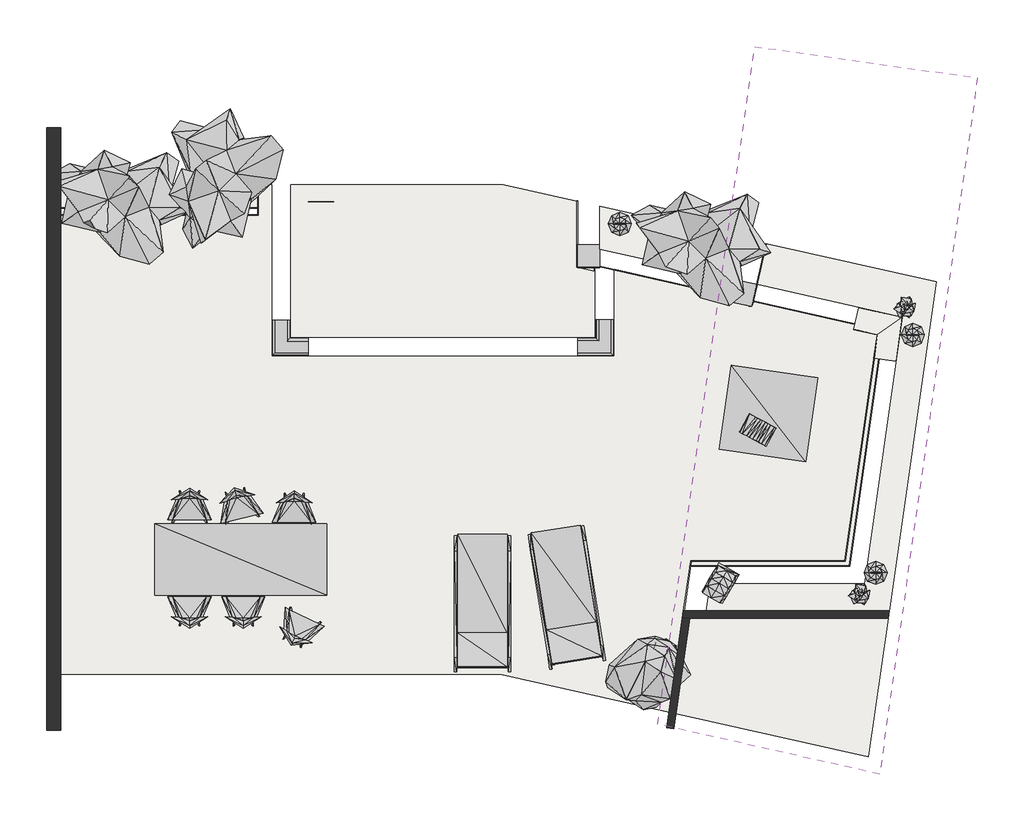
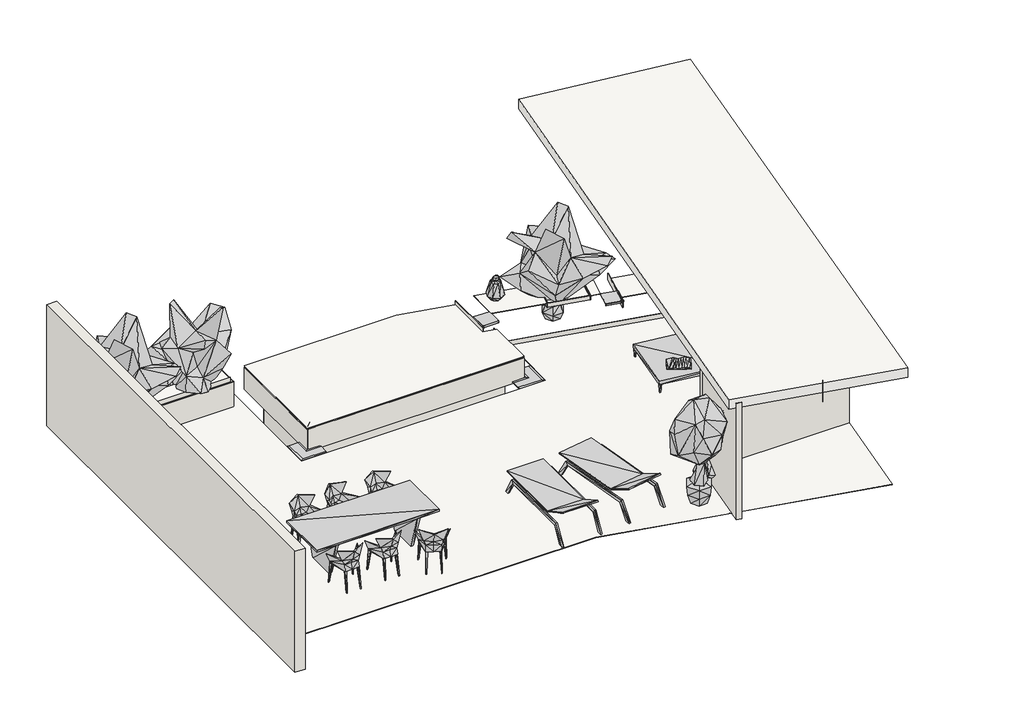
# One storey: 25 walls, 22 geographic elements, 16 slabs, 6 proxies.
"""IFC4 building model written with IfcOpenShell, lengths in millimetres."""

from ifc_helpers import new_model, si_unit, frame, origin, place, context, project, spatial, polyline, outline, extrude, faceted_brep, transform, mapped, element, save
from components import generic_models_951569f7, generic_models_075414a9, generic_models_225379f4, bloque_rs_943_f1732a4f, geographic_element_e55dff35, geographic_element_0adfae54, enscape_assetdefinition_dining_chair_06_enscape_9facff2e, enscape_assetdefinition_dining_chair_06_enscape_993760cc, enscape_assetdefinition_dining_table_13_enscape_23bd2d82, enscape_assetdefinition_interior_plant_62_enscape_7ba2f476, enscape_assetdefinition_interior_plant_82_enscape_8433f75e, enscape_assetdefinition_interior_plant_93_enscape_c96065a9, enscape_assetdefinition_interior_plant_94_enscape_f19d4f65, enscape_assetdefinition_open_book_enscape_assetdefinition_955bd487, enscape_assetdefinition_outdoor_couch_table_02_enscape_a96dd87a, enscape_assetdefinition_throw_04_enscape_assetdefinition_2e475fd9, slab_73b0a854, slab_c32b6409, slab_32885ca8, slab_039c3274

model = new_model("IFC4")

# Units and contexts
model_context = context("Model", 3, world=origin())
ifc_project = project(units=[si_unit("LENGTHUNIT", "METRE", prefix="MILLI")], contexts=[model_context])

# Site, building, storey
site = spatial("IfcSite", under=ifc_project)
building = spatial("IfcBuilding", under=site)
storey = spatial("IfcBuildingStorey", under=building, Name="1_NPlaya", Elevation=0.0)

# Proxies
placement = place(None, origin())
generic_models_shape = generic_models_951569f7(model_context)
element("IfcBuildingElementProxy", 1, Name="ROSA GRES_DL1 : Pieza DL1_Mistery_Grey_Anti-Slip", ObjectType="ROSA GRES_DL1 : Pieza DL1_Mistery_Grey_Anti-Slip", at=placement, inside=storey, context=model_context, shape_type="MappedRepresentation", body=[
    mapped(generic_models_shape, transform((10148.8838522, 9930.6579213, -488.0), x_axis=(-1.0, 0.0, 0.0), y_axis=(0.0, -1.0, 0.0), z_axis=(0.0, 0.0, 1.0))),
])
generic_models_2_shape = generic_models_075414a9(model_context)
element("IfcBuildingElementProxy", 2, Name="ROSA GRES_245 EC_Colocación en plano : Pieza 245 EC_Mistery_Grey_Anti-Slip", ObjectType="ROSA GRES_245 EC_Colocación en plano : Pieza 245 EC_Mistery_Grey_Anti-Slip", at=placement, inside=storey, context=model_context, shape_type="MappedRepresentation", body=[
    mapped(generic_models_2_shape, transform((5584.8213522, 8700.953544, -1025.0413492), x_axis=(-1.0, 0.0, 0.0), y_axis=(0.0, -1.0, 0.0), z_axis=(0.0, 0.0, 1.0))),
])
element("IfcBuildingElementProxy", 3, Name="ROSA GRES_245 EC_Colocación en plano : Pieza 245 EC_Mistery_Grey_Anti-Slip", ObjectType="ROSA GRES_245 EC_Colocación en plano : Pieza 245 EC_Mistery_Grey_Anti-Slip", at=placement, inside=storey, context=model_context, shape_type="MappedRepresentation", body=[
    mapped(generic_models_2_shape, transform((10343.7649872, 8703.453544, -1025.0413492), x_axis=(0.0, -1.0, 0.0), y_axis=(1.0, 0.0, 0.0), z_axis=(0.0, 0.0, 1.0))),
])
generic_models_3_shape = generic_models_225379f4(model_context)
element("IfcBuildingElementProxy", 4, Name="ROSA GRES_DL1 : Pieza DL1_Mistery_Grey_Anti-Slip", ObjectType="ROSA GRES_DL1 : Pieza DL1_Mistery_Grey_Anti-Slip", at=placement, inside=storey, context=model_context, shape_type="MappedRepresentation", body=[
    mapped(generic_models_3_shape, transform((11966.710321, 9455.4745053, -488.0), x_axis=(0.9756469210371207, -0.21934695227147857, 0.0), y_axis=(0.21934695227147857, 0.9756469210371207, 0.0), z_axis=(0.0, 0.0, 1.0))),
])
bloque_rs_943_shape = bloque_rs_943_f1732a4f(model_context)
element("IfcBuildingElementProxy", 5, Name="ROSA GRES_RS 943 : Bloque RS 943", ObjectType="ROSA GRES_RS 943 : Bloque RS 943", at=placement, inside=storey, context=model_context, shape_type="MappedRepresentation", body=[
    mapped(bloque_rs_943_shape, transform((5574.8213522, 8694.703544, -1135.0), x_axis=(-1.0, 0.0, 0.0), y_axis=(0.0, -1.0, 0.0), z_axis=(0.0, 0.0, 1.0))),
])
element("IfcBuildingElementProxy", 6, Name="ROSA GRES_RS 943 : Bloque RS 943", ObjectType="ROSA GRES_RS 943 : Bloque RS 943", at=placement, inside=storey, context=model_context, shape_type="MappedRepresentation", body=[
    mapped(bloque_rs_943_shape, transform((10350.0149872, 8695.953544, -1135.0), x_axis=(0.0, -1.0, 0.0), y_axis=(1.0, 0.0, 0.0), z_axis=(0.0, 0.0, 1.0))),
])

# Geographic elements
geographic_element_shape = geographic_element_e55dff35(model_context)
element("IfcGeographicElement", 7, ObjectType="Enscape AssetDefinition - Candle Lantern 02 : Enscape AssetDefinition - Candle Lantern 02", at=placement, inside=storey, context=model_context, shape_type="MappedRepresentation", body=[
    mapped(geographic_element_shape, transform((14000.5713522, 5673.5767075, -600.0), x_axis=(1.0, 0.0, 0.0), y_axis=(0.0, 1.0, 0.0), z_axis=(0.0, 0.0, 1.0))),
])
element("IfcGeographicElement", 8, ObjectType="Enscape AssetDefinition - Candle Lantern 02 : Enscape AssetDefinition - Candle Lantern 02", at=placement, inside=storey, context=model_context, shape_type="MappedRepresentation", body=[
    mapped(geographic_element_shape, transform((10431.8838522, 10540.953544, -450.0), x_axis=(1.0, 0.0, 0.0), y_axis=(0.0, 1.0, 0.0), z_axis=(0.0, 0.0, 1.0))),
])
element("IfcGeographicElement", 9, ObjectType="Enscape AssetDefinition - Candle Lantern 02 : Enscape AssetDefinition - Candle Lantern 02", at=placement, inside=storey, context=model_context, shape_type="MappedRepresentation", body=[
    mapped(geographic_element_shape, transform((14518.5513881, 8991.813544, -600.0), x_axis=(1.0, 0.0, 0.0), y_axis=(0.0, 1.0, 0.0), z_axis=(0.0, 0.0, 1.0))),
])
geographic_element_2_shape = geographic_element_0adfae54(model_context)
element("IfcGeographicElement", 10, ObjectType="Enscape AssetDefinition - Sunbed : Enscape AssetDefinition - Sunbed", at=placement, inside=storey, context=model_context, shape_type="MappedRepresentation", body=[
    mapped(geographic_element_2_shape, transform((9691.0986664, 5329.572896, -1000.0), x_axis=(-0.9871439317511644, -0.15983384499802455, 0.0), y_axis=(0.15983384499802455, -0.9871439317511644, 0.0), z_axis=(0.0, 0.0, 1.0))),
])
element("IfcGeographicElement", 11, ObjectType="Enscape AssetDefinition - Sunbed : Enscape AssetDefinition - Sunbed", at=placement, inside=storey, context=model_context, shape_type="MappedRepresentation", body=[
    mapped(geographic_element_2_shape, transform((8514.8590964, 5242.4533583, -1000.0), x_axis=(-1.0, 0.0, 0.0), y_axis=(0.0, -1.0, 0.0), z_axis=(0.0, 0.0, 1.0))),
])
enscape_assetdefinition_dining_chair_06_enscape_shape = enscape_assetdefinition_dining_chair_06_enscape_9facff2e(model_context)
element("IfcGeographicElement", 12, ObjectType="Enscape AssetDefinition - Dining Chair 06 : Enscape AssetDefinition - Dining Chair 06", at=placement, inside=storey, context=model_context, shape_type="MappedRepresentation", body=[
    mapped(enscape_assetdefinition_dining_chair_06_enscape_shape, transform((4428.9239273, 5153.8271224, -1000.0), x_axis=(-1.0, 0.0, 0.0), y_axis=(0.0, -1.0, 0.0), z_axis=(0.0, 0.0, 1.0))),
])
element("IfcGeographicElement", 13, ObjectType="Enscape AssetDefinition - Dining Chair 06 : Enscape AssetDefinition - Dining Chair 06", at=placement, inside=storey, context=model_context, shape_type="MappedRepresentation", body=[
    mapped(enscape_assetdefinition_dining_chair_06_enscape_shape, transform((5178.9411599, 5153.8271224, -1000.0), x_axis=(-1.0, 0.0, 0.0), y_axis=(0.0, -1.0, 0.0), z_axis=(0.0, 0.0, 1.0))),
])
element("IfcGeographicElement", 14, ObjectType="Enscape AssetDefinition - Dining Chair 06 : Enscape AssetDefinition - Dining Chair 06", at=placement, inside=storey, context=model_context, shape_type="MappedRepresentation", body=[
    mapped(enscape_assetdefinition_dining_chair_06_enscape_shape, transform((5954.1118478, 4891.9208979, -1000.0), x_axis=(-0.9017533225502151, 0.4322510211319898, 0.0), y_axis=(-0.4322510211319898, -0.9017533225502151, 0.0), z_axis=(0.0, 0.0, 1.0))),
])
enscape_assetdefinition_dining_chair_06_enscape_2_shape = enscape_assetdefinition_dining_chair_06_enscape_993760cc(model_context)
element("IfcGeographicElement", 15, ObjectType="Enscape AssetDefinition - Dining Chair 06 : Enscape AssetDefinition - Dining Chair 06", at=placement, inside=storey, context=model_context, shape_type="MappedRepresentation", body=[
    mapped(enscape_assetdefinition_dining_chair_06_enscape_2_shape, transform((4428.9239273, 6600.0029066, -1000.0), x_axis=(-1.0, 0.0, 0.0), y_axis=(0.0, -1.0, 0.0), z_axis=(0.0, 0.0, 1.0))),
])
element("IfcGeographicElement", 16, ObjectType="Enscape AssetDefinition - Dining Chair 06 : Enscape AssetDefinition - Dining Chair 06", at=placement, inside=storey, context=model_context, shape_type="MappedRepresentation", body=[
    mapped(enscape_assetdefinition_dining_chair_06_enscape_2_shape, transform((5115.723309, 6615.4461257, -1000.0), x_axis=(-0.9698636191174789, -0.24364843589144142, 0.0), y_axis=(0.24364843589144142, -0.9698636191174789, 0.0), z_axis=(0.0, 0.0, 1.0))),
])
element("IfcGeographicElement", 17, ObjectType="Enscape AssetDefinition - Dining Chair 06 : Enscape AssetDefinition - Dining Chair 06", at=placement, inside=storey, context=model_context, shape_type="MappedRepresentation", body=[
    mapped(enscape_assetdefinition_dining_chair_06_enscape_2_shape, transform((5888.7823334, 6562.7844674, -1000.0), x_axis=(-1.0, 0.0, 0.0), y_axis=(0.0, -1.0, 0.0), z_axis=(0.0, 0.0, 1.0))),
])
enscape_assetdefinition_dining_table_13_enscape_shape = enscape_assetdefinition_dining_table_13_enscape_23bd2d82(model_context)
element("IfcGeographicElement", 18, ObjectType="Enscape AssetDefinition - Dining Table 13 : Enscape AssetDefinition - Dining Table 13", at=placement, inside=storey, context=model_context, shape_type="MappedRepresentation", body=[
    mapped(enscape_assetdefinition_dining_table_13_enscape_shape, transform((5144.8590964, 5858.3616874, -1000.0), x_axis=(1.0, 0.0, 0.0), y_axis=(0.0, 1.0, 0.0), z_axis=(0.0, 0.0, 1.0))),
])
enscape_assetdefinition_interior_plant_62_enscape_shape = enscape_assetdefinition_interior_plant_62_enscape_7ba2f476(model_context)
element("IfcGeographicElement", 19, ObjectType="Enscape AssetDefinition - Interior Plant 62 : Enscape AssetDefinition - Interior Plant 62", at=placement, inside=storey, context=model_context, shape_type="MappedRepresentation", body=[
    mapped(enscape_assetdefinition_interior_plant_62_enscape_shape, transform((14413.1394144, 9362.5767075, -600.0), x_axis=(1.0, 0.0, 0.0), y_axis=(0.0, 1.0, 0.0), z_axis=(0.0, 0.0, 1.0))),
])
element("IfcGeographicElement", 20, ObjectType="Enscape AssetDefinition - Interior Plant 62 : Enscape AssetDefinition - Interior Plant 62", at=placement, inside=storey, context=model_context, shape_type="MappedRepresentation", body=[
    mapped(enscape_assetdefinition_interior_plant_62_enscape_shape, transform((13779.3958643, 5362.4533583, -600.0), x_axis=(1.0, 0.0, 0.0), y_axis=(0.0, 1.0, 0.0), z_axis=(0.0, 0.0, 1.0))),
])
enscape_assetdefinition_interior_plant_82_enscape_shape = enscape_assetdefinition_interior_plant_82_enscape_8433f75e(model_context)
element("IfcGeographicElement", 21, ObjectType="Enscape AssetDefinition - Interior Plant 82 : Enscape AssetDefinition - Interior Plant 82", at=placement, inside=storey, context=model_context, shape_type="MappedRepresentation", body=[
    mapped(enscape_assetdefinition_interior_plant_82_enscape_shape, transform((3300.5713522, 10850.953544, -800.0), x_axis=(1.0, 0.0, 0.0), y_axis=(0.0, 1.0, 0.0), z_axis=(0.0, 0.0, 1.0))),
])
element("IfcGeographicElement", 22, ObjectType="Enscape AssetDefinition - Interior Plant 82 : Enscape AssetDefinition - Interior Plant 82", at=placement, inside=storey, context=model_context, shape_type="MappedRepresentation", body=[
    mapped(enscape_assetdefinition_interior_plant_82_enscape_shape, transform((4864.7706917, 11007.5223338, -1000.0), x_axis=(0.0, 1.0, 0.0), y_axis=(-1.0, 0.0, 0.0), z_axis=(0.0, 0.0, 1.0))),
])
element("IfcGeographicElement", 23, ObjectType="Enscape AssetDefinition - Interior Plant 82 : Enscape AssetDefinition - Interior Plant 82", at=placement, inside=storey, context=model_context, shape_type="MappedRepresentation", body=[
    mapped(enscape_assetdefinition_interior_plant_82_enscape_shape, transform((11395.7713522, 10272.4322797, -1000.0), x_axis=(1.0, 0.0, 0.0), y_axis=(0.0, 1.0, 0.0), z_axis=(0.0, 0.0, 1.0))),
])
enscape_assetdefinition_interior_plant_93_enscape_shape = enscape_assetdefinition_interior_plant_93_enscape_c96065a9(model_context)
element("IfcGeographicElement", 24, ObjectType="Enscape AssetDefinition - Interior Plant 93 : Enscape AssetDefinition - Interior Plant 93", at=placement, inside=storey, context=model_context, shape_type="MappedRepresentation", body=[
    mapped(enscape_assetdefinition_interior_plant_93_enscape_shape, transform((10820.5713522, 4322.5767075, -1000.0), x_axis=(1.0, 0.0, 0.0), y_axis=(0.0, 1.0, 0.0), z_axis=(0.0, 0.0, 1.0))),
])
enscape_assetdefinition_interior_plant_94_enscape_shape = enscape_assetdefinition_interior_plant_94_enscape_f19d4f65(model_context)
element("IfcGeographicElement", 25, ObjectType="Enscape AssetDefinition - Interior Plant 94 : Enscape AssetDefinition - Interior Plant 94", at=placement, inside=storey, context=model_context, shape_type="MappedRepresentation", body=[
    mapped(enscape_assetdefinition_interior_plant_94_enscape_shape, transform((11060.5713522, 4573.5767075, -1000.0), x_axis=(1.0, 0.0, 0.0), y_axis=(0.0, 1.0, 0.0), z_axis=(0.0, 0.0, 1.0))),
])
enscape_assetdefinition_open_book_enscape_assetdefinition_shape = enscape_assetdefinition_open_book_enscape_assetdefinition_955bd487(model_context)
element("IfcGeographicElement", 26, ObjectType="Enscape AssetDefinition - Open Book : Enscape AssetDefinition - Open Book", at=placement, inside=storey, context=model_context, shape_type="MappedRepresentation", body=[
    mapped(enscape_assetdefinition_open_book_enscape_assetdefinition_shape, transform((12353.3298417, 7667.3495246, -760.0), x_axis=(0.8817087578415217, -0.4717940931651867, 0.0), y_axis=(0.4717940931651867, 0.8817087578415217, 0.0), z_axis=(0.0, 0.0, 1.0))),
])
enscape_assetdefinition_outdoor_couch_table_02_enscape_shape = enscape_assetdefinition_outdoor_couch_table_02_enscape_a96dd87a(model_context)
element("IfcGeographicElement", 27, ObjectType="Enscape AssetDefinition - Outdoor Couch Table 02 : Enscape AssetDefinition - Outdoor Couch Table 02", at=placement, inside=storey, context=model_context, shape_type="MappedRepresentation", body=[
    mapped(enscape_assetdefinition_outdoor_couch_table_02_enscape_shape, transform((12505.9064108, 7895.4578869, -1000.0), x_axis=(0.1413773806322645, 0.9899557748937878, 0.0), y_axis=(-0.9899557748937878, 0.1413773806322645, 0.0), z_axis=(0.0, 0.0, 1.0))),
])
enscape_assetdefinition_throw_04_enscape_assetdefinition_shape = enscape_assetdefinition_throw_04_enscape_assetdefinition_2e475fd9(model_context)
element("IfcGeographicElement", 28, ObjectType="Enscape AssetDefinition - Throw 04 : Enscape AssetDefinition - Throw 04", at=placement, inside=storey, context=model_context, shape_type="MappedRepresentation", body=[
    mapped(enscape_assetdefinition_throw_04_enscape_assetdefinition_shape, transform((11830.642422, 5522.3886461, -600.0), x_axis=(-0.8620330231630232, 0.5068521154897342, 0.0), y_axis=(-0.5068521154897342, -0.8620330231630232, 0.0), z_axis=(0.0, 0.0, 1.0))),
])

# Slabs
element("IfcSlab", 29, ObjectType="Pieza 316_Patrón 1/3_Mistery_Grey_Liso", at=placement, inside=storey, context=model_context, shape_type="SweptSolid", body=[
    extrude(outline(polyline([(5575.664652, 11090.0029066), (5575.664652, 8694.5736523), (10351.8838522, 8694.5736523), (10351.8838522, 9904.9975554), (14098.4909149, 9052.5313158), (13629.9565034, 5771.7494512), (11408.6451521, 5771.7494512), (11117.2219893, 3731.1398312), (8764.8590964, 4260.0029066), (2634.8590964, 4260.0029066), (2634.8590964, 10660.0029066), (5390.5713522, 10660.0029066), (5390.5713522, 11090.0029066), (5575.664652, 11090.0029066)])), frame((0.0, 0.0, -1009.0), z_axis=(0.0, 0.0, 1.0), x_axis=(1.0, 0.0, 0.0)), (0.0, 0.0, 1.0), 9.0),
])
element("IfcSlab", 30, ObjectType="Pieza 316_Patrón 1/3_Mistery_Grey_Liso", at=placement, inside=storey, context=model_context, shape_type="SweptSolid", body=[
    extrude(outline(polyline([(12082.5515096, 10351.8642376), (12058.3019528, 10179.3196761), (12127.0570667, 10169.656775), (12036.0298345, 9764.7710997), (11857.4864479, 9804.911592), (11963.4310259, 10276.1490548), (11231.6958351, 10440.659269), (11125.7512571, 9969.4218062), (10148.8838522, 10189.0431502), (10148.8838522, 10786.595387), (12082.5515096, 10351.8642376)])), frame((0.0, 0.0, -459.0), z_axis=(0.0, 0.0, 1.0), x_axis=(1.0, 0.0, 0.0)), (0.0, 0.0, 1.0), 9.0),
])
element("IfcSlab", 31, ObjectType="GENÉRICO_HIERBA 3", at=placement, inside=storey, context=model_context, shape_type="SweptSolid", body=[
    extrude(outline(polyline([(11963.4310259, 10276.1490548), (11859.4605705, 9813.6924143), (11127.7253797, 9978.2026285), (11231.6958351, 10440.659269), (11963.4310259, 10276.1490548)])), frame((0.0, 0.0, -540.2880143), z_axis=(0.0, 0.0, 1.0), x_axis=(1.0, 0.0, 0.0)), (0.0, 0.0, 1.0), 50.0),
])
element("IfcSlab", 32, ObjectType="Pieza 316_Patrón 1/3_Mistery_Grey_Liso", at=placement, inside=storey, context=model_context, shape_type="SweptSolid", body=[
    extrude(outline(polyline([(12473.1891816, 10264.0402708), (14843.5755039, 9731.1251308), (14188.0612876, 5141.069204), (11637.2069966, 5141.069204), (11691.8325157, 5525.0767075), (13845.2449627, 5525.0767075), (14375.7478845, 9239.7758249), (12345.5292554, 9696.2137628), (12473.1891816, 10264.0402708)])), frame((0.0, 0.0, -609.0), z_axis=(0.0, 0.0, 1.0), x_axis=(1.0, 0.0, 0.0)), (0.0, 0.0, 1.0), 9.0),
])
element("IfcSlab", 33, ObjectType="GENÉRICO_HIERBA 3", at=placement, inside=storey, context=model_context, shape_type="SweptSolid", body=[
    extrude(outline(polyline([(5380.5713522, 10769.0029066), (2634.8590964, 10769.0029066), (2634.8590964, 11100.0029066), (5380.5713522, 11100.0029066), (5380.5713522, 10769.0029066)])), frame((0.0, 0.0, -540.0), z_axis=(0.0, 0.0, 1.0), x_axis=(1.0, 0.0, 0.0)), (0.0, 0.0, 1.0), 50.0),
])
element("IfcSlab", 34, ObjectType="GENÉRICO_LOSA 20 cm", at=placement, inside=storey, context=model_context, shape_type="SweptSolid", body=[
    extrude(outline(polyline([(10961.6235233, 3561.1296081), (12311.6530933, 13014.3360769), (15419.2866507, 12577.5866628), (14054.3852471, 2865.808541), (10961.6235233, 3561.1296081)])), frame((0.0, 0.0, 1300.0), z_axis=(0.0, 0.0, 1.0), x_axis=(1.0, 0.0, 0.0)), (0.0, 0.0, 1.0), 200.0),
])
element("IfcSlab", 35, ObjectType="Pieza 199_Patrón 1/3_Alma_Honey_Anti-Slip", at=placement, inside=storey, context=model_context, shape_type="SweptSolid", body=[
    extrude(outline(polyline([(14173.9953955, 5042.5767075), (13897.4415213, 3106.0851441), (11215.182269, 3709.1161991), (11405.525283, 5042.5767075), (14173.9953955, 5042.5767075)])), frame((0.0, 0.0, -1009.0), z_axis=(0.0, 0.0, 1.0), x_axis=(1.0, 0.0, 0.0)), (0.0, 0.0, 1.0), 9.0),
])
element("IfcSlab", 36, ObjectType="GENÉRICO_AGUA", at=placement, inside=storey, context=model_context, shape_type="SweptSolid", body=[
    extrude(outline(polyline([(9831.8838522, 9935.3991209), (10080.0149872, 9879.6137676), (10080.0149872, 8961.3687177), (5841.0713522, 8961.3687177), (5841.0713522, 11088.0403669), (8808.068019, 11088.0403669), (9831.8838522, 10857.8639805), (9831.8838522, 9935.3991209)])), frame((0.0, 0.0, -571.0), z_axis=(0.0, 0.0, 1.0), x_axis=(1.0, 0.0, 0.0)), (0.0, 0.0, 1.0), 1.0),
])
slab_shape = slab_73b0a854(model_context)
element("IfcSlab", 37, ObjectType="ROSA GRES_L62 (corte-profundidad) : Pieza L62_Mistery_Grey_Anti-Slip", at=placement, inside=storey, context=model_context, shape_type="MappedRepresentation", body=[
    mapped(slab_shape, transform((13695.3431947, 9066.8082263, -614.0), x_axis=(0.9756469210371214, -0.2193469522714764, 0.0), y_axis=(0.2193469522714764, 0.9756469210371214, 0.0), z_axis=(0.0, 0.0, 1.0))),
])
slab_2_shape = slab_c32b6409(model_context)
element("IfcSlab", 38, ObjectType="ROSA GRES_L62 (corte-profundidad) : Pieza L62_Mistery_Grey_Anti-Slip", at=placement, inside=storey, context=model_context, shape_type="MappedRepresentation", body=[
    mapped(slab_2_shape, transform((13973.8295112, 8667.679961, -614.0), x_axis=(0.1413773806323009, 0.9899557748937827, 0.0), y_axis=(-0.9899557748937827, 0.1413773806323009, 0.0), z_axis=(0.0, 0.0, 1.0))),
])
slab_3_shape = slab_32885ca8(model_context)
element("IfcSlab", 39, ObjectType="ROSA GRES_I25 (corte-inclinación) : Pieza I25_Tresor_Java_Anti-Slip", at=placement, inside=storey, context=model_context, shape_type="MappedRepresentation", body=[
    mapped(slab_3_shape, transform((9483.7024872, 9210.953544, -600.0), x_axis=(1.0, 0.0, 0.0), y_axis=(0.0, 1.0, 0.0), z_axis=(0.0, 0.0, 1.0))),
])
element("IfcSlab", 40, ObjectType="ROSA GRES_I25 (corte-inclinación) : Pieza I25_Tresor_Java_Anti-Slip", at=placement, inside=storey, context=model_context, shape_type="MappedRepresentation", body=[
    mapped(slab_3_shape, transform((6089.5997173, 9558.813544, -600.0), x_axis=(0.0, -1.0, 0.0), y_axis=(1.0, 0.0, 0.0), z_axis=(0.0, 0.0, 1.0))),
])
element("IfcSlab", 41, ObjectType="ROSA GRES_I25 (corte-inclinación) : Pieza I25_Tresor_Java_Anti-Slip", at=placement, inside=storey, context=model_context, shape_type="MappedRepresentation", body=[
    mapped(slab_3_shape, transform((6437.7722173, 10839.9003669, -600.0), x_axis=(-1.0, 0.0, 0.0), y_axis=(0.0, -1.0, 0.0), z_axis=(0.0, 0.0, 1.0))),
])
slab_4_shape = slab_039c3274(model_context)
element("IfcSlab", 42, ObjectType="ROSA GRES_I25 (corte-inclinación) : Pieza I25_Tresor_Java_Anti-Slip", at=placement, inside=storey, context=model_context, shape_type="MappedRepresentation", body=[
    mapped(slab_4_shape, transform((9831.8749872, 9558.813544, -600.0), x_axis=(0.0, -1.0, 0.0), y_axis=(1.0, 0.0, 0.0), z_axis=(0.0, 0.0, 1.0))),
])
element("IfcSlab", 43, ObjectType="ROSA GRES_I25 (corte-inclinación) : Pieza I25_Tresor_Java_Anti-Slip", at=placement, inside=storey, context=model_context, shape_type="MappedRepresentation", body=[
    mapped(slab_4_shape, transform((6437.7722173, 9210.953544, -600.0), x_axis=(-1.0, 0.0, 0.0), y_axis=(0.0, -1.0, 0.0), z_axis=(0.0, 0.0, 1.0))),
])
element("IfcSlab", 44, ObjectType="ROSA GRES_I25 (corte-inclinación) : Pieza I25_Tresor_Java_Anti-Slip", at=placement, inside=storey, context=model_context, shape_type="MappedRepresentation", body=[
    mapped(slab_4_shape, transform((6089.5997173, 10492.0403669, -600.0), x_axis=(0.0, 1.0, 0.0), y_axis=(-1.0, 0.0, 0.0), z_axis=(0.0, 0.0, 1.0))),
])

# Walls
element("IfcWall", 45, ObjectType="Pieza 316_Patrón 1/3_Mistery_Grey_Liso", at=placement, inside=storey, context=model_context, shape_type="SweptSolid", body=[
    extrude(outline(polyline([(12275.3941013, 9420.3912442), (12465.4558935, 10265.7788846), (12474.2367158, 10263.804762), (12284.1749236, 9418.4171216), (12275.3941013, 9420.3912442)])), frame((0.0, 0.0, -611.2245371), z_axis=(0.0, 0.0, 1.0), x_axis=(1.0, 0.0, 0.0)), (0.0, 0.0, 1.0), 124.4359265),
])
element("IfcWall", 46, ObjectType="Pieza 316_Patrón 1/3_Mistery_Grey_Liso", at=placement, inside=storey, context=model_context, shape_type="Brep", body=[
    faceted_brep([(11224.8891354, 10451.4142139, -540.2880143), (11116.9704349, 9971.3959288, -540.2880143), (11116.9704349, 9971.3959288, -450.0), (11224.8891354, 10451.4142139, -450.0), (11233.6699577, 10449.4400913, -540.2880143), (11233.6699577, 10449.4400913, -534.7113052), (11233.6699577, 10449.4400913, -450.0), (11231.6958351, 10440.659269, -450.0), (11127.7253797, 9978.2026285, -450.0), (11125.7512571, 9969.4218062, -450.0), (11125.7512571, 9969.4218062, -538.8444333), (11125.7512571, 9969.4218062, -540.2880143)], [[[0, 1, 2, 3]], [[4, 5, 6, 7, 8, 9, 10, 11]], [[1, 0, 4, 11]], [[3, 2, 9, 8, 7, 6]], [[0, 3, 6, 5, 4]], [[2, 1, 11, 10, 9]]]),
])
element("IfcWall", 47, ObjectType="Pieza 316_Patrón 1/3_Mistery_Grey_Liso", at=placement, inside=storey, context=model_context, shape_type="Brep", body=[
    faceted_brep([(11974.1859707, 10282.9557546, -534.7113052), (11233.6699577, 10449.4400913, -534.7113052), (11233.6699577, 10449.4400913, -450.0), (11974.1859707, 10282.9557546, -450.0), (11972.2118482, 10274.1749323, -534.7113052), (11972.2118482, 10274.1749323, -533.8246201), (11972.2118482, 10274.1749323, -450.0), (11963.4310259, 10276.1490548, -450.0), (11231.6958351, 10440.659269, -450.0), (11231.6958351, 10440.659269, -534.7113052)], [[[0, 1, 2, 3]], [[4, 5, 6, 7, 8, 9]], [[1, 0, 4, 9]], [[3, 2, 8, 7, 6]], [[2, 1, 9, 8]], [[0, 3, 6, 5, 4]]]),
])
element("IfcWall", 48, ObjectType="Pieza 316_Patrón 1/3_Mistery_Grey_Liso", at=placement, inside=storey, context=model_context, shape_type="Brep", body=[
    faceted_brep([(11866.2672702, 9802.9374694, -533.8246201), (11972.2118482, 10274.1749323, -533.8246201), (11972.2118482, 10274.1749323, -450.0), (11866.2672702, 9802.9374694, -450.0), (11857.4864479, 9804.911592, -533.8246201), (11857.4864479, 9804.911592, -450.0), (11859.4605705, 9813.6924143, -450.0), (11963.4310259, 10276.1490548, -450.0), (11963.4310259, 10276.1490548, -533.8246201)], [[[0, 1, 2, 3]], [[4, 5, 6, 7, 8]], [[1, 0, 4, 8]], [[3, 2, 7, 6, 5]], [[2, 1, 8, 7]], [[0, 3, 5, 4]]]),
])
element("IfcWall", 49, ObjectType="Pieza 316_Patrón 1/3_Mistery_Grey_Liso", at=placement, inside=storey, context=model_context, shape_type="Brep", body=[
    faceted_brep([(11859.4605705, 9813.6924143, -538.8444333), (11127.7253797, 9978.2026285, -538.8444333), (11127.7253797, 9978.2026285, -450.0), (11859.4605705, 9813.6924143, -450.0), (11857.4864479, 9804.911592, -538.8444333), (11857.4864479, 9804.911592, -533.8246201), (11857.4864479, 9804.911592, -450.0), (11125.7512571, 9969.4218062, -450.0), (11125.7512571, 9969.4218062, -538.8444333)], [[[0, 1, 2, 3]], [[4, 5, 6, 7, 8]], [[1, 0, 4, 8]], [[3, 2, 7, 6]], [[2, 1, 8, 7]], [[0, 3, 6, 5, 4]]]),
])
element("IfcWall", 50, ObjectType="Pieza 316_Patrón 1/3_Mistery_Grey_Liso", at=placement, inside=storey, context=model_context, shape_type="Brep", body=[
    faceted_brep([(13578.1773979, 5833.5767075, -931.7167953), (14029.2017784, 8991.7494512, -931.7167953), (14029.2017784, 8991.7494512, -637.3941163), (13578.1773979, 5833.5767075, -637.3941163), (13569.0860827, 5833.5767075, -931.7167953), (13569.0860827, 5833.5767075, -637.3941163), (13570.371389, 5842.5767075, -637.3941163), (14020.3932798, 8993.729796, -637.3941163), (14020.3932798, 8993.729796, -931.7167953), (13570.371389, 5842.5767075, -931.7167953)], [[[0, 1, 2, 3]], [[4, 5, 6, 7, 8, 9]], [[1, 0, 4, 9, 8]], [[3, 2, 7, 6, 5]], [[2, 1, 8, 7]], [[0, 3, 5, 4]]]),
])
element("IfcWall", 51, ObjectType="Pieza 316_Patrón 1/3_Mistery_Grey_Liso", at=placement, inside=storey, context=model_context, shape_type="Brep", body=[
    faceted_brep([(2634.8590964, 10669.0029066, -1009.0), (2634.8590964, 10669.0029066, -482.0756544), (5390.5713522, 10669.0029066, -482.0756544), (5390.5713522, 10669.0029066, -488.9506544), (5390.5713522, 10669.0029066, -1009.0), (2634.8590964, 10660.0029066, -1009.0), (5390.5713522, 10660.0029066, -1009.0), (5390.5713522, 10660.0029066, -482.0756544), (2634.8590964, 10660.0029066, -482.0756544)], [[[0, 1, 2, 3, 4]], [[5, 6, 7, 8]], [[1, 0, 5, 8]], [[0, 4, 6, 5]], [[2, 1, 8, 7]], [[4, 3, 2, 7, 6]]]),
])
element("IfcWall", 52, ObjectType="GENÉRICO_MURO BASE 20 cm", at=placement, inside=storey, context=model_context, shape_type="Brep", body=[
    faceted_brep([(2434.8590964, 11878.3616874, -1100.0), (2434.8590964, 3478.3616874, -1100.0), (2434.8590964, 3478.3616874, 1400.0), (2434.8590964, 11878.3616874, 1400.0), (2634.8590964, 11878.3616874, -1100.0), (2634.8590964, 11878.3616874, 1400.0), (2634.8590964, 3478.3616874, 1400.0), (2634.8590964, 3478.3616874, -1100.0), (2634.8590964, 4060.0029066, -1100.0), (2634.8590964, 4260.0029066, -1100.0)], [[[0, 1, 2, 3]], [[4, 5, 6, 7, 8, 9]], [[1, 0, 4, 9, 8, 7]], [[2, 1, 7, 6]], [[3, 2, 6, 5]], [[0, 3, 5, 4]]]),
])
element("IfcWall", 53, ObjectType="Pieza 316_Patrón 1/3_Mistery_Grey_Liso", at=placement, inside=storey, context=model_context, shape_type="SweptSolid", body=[
    extrude(outline(polyline([(2634.8590964, 10769.0029066), (5381.5713522, 10769.0029066), (5381.5713522, 10760.0029066), (2634.8590964, 10760.0029066), (2634.8590964, 10769.0029066)])), frame((0.0, 0.0, -540.2880143), z_axis=(0.0, 0.0, 1.0), x_axis=(1.0, 0.0, 0.0)), (0.0, 0.0, 1.0), 90.2880143),
])
element("IfcWall", 54, ObjectType="Pieza 316_Patrón 1/3_Mistery_Grey_Liso", at=placement, inside=storey, context=model_context, shape_type="Brep", body=[
    faceted_brep([(14108.5758204, 9059.4886552, -1004.0597825), (10088.6425301, 9963.2583454, -1004.0597825), (10088.6425301, 9963.2583454, -908.1106888), (14108.5758204, 9059.4886552, -908.1106888), (14107.2994135, 9050.550971, -1004.0597825), (14107.2994135, 9050.550971, -908.1106888), (14098.4909149, 9052.5313158, -908.1106888), (10086.6684075, 9954.4775231, -908.1106888), (10086.6684075, 9954.4775231, -1004.0597825), (14098.4909149, 9052.5313158, -1004.0597825)], [[[0, 1, 2, 3]], [[4, 5, 6, 7, 8, 9]], [[0, 3, 5, 4]], [[1, 0, 4, 9, 8]], [[2, 1, 8, 7]], [[3, 2, 7, 6, 5]]]),
])
element("IfcWall", 55, ObjectType="Pieza 316_Patrón 1/3_Mistery_Grey_Liso", at=placement, inside=storey, context=model_context, shape_type="Brep", body=[
    faceted_brep([(13637.7625122, 5762.7494512, -1004.0597825), (14107.2994135, 9050.550971, -1004.0597825), (14107.2994135, 9050.550971, -908.1106888), (13637.7625122, 5762.7494512, -908.1106888), (13628.671197, 5762.7494512, -1004.0597825), (13628.671197, 5762.7494512, -908.1106888), (13629.9565034, 5771.7494512, -908.1106888), (14098.4909149, 9052.5313158, -908.1106888), (14098.4909149, 9052.5313158, -1004.0597825), (13629.9565034, 5771.7494512, -1004.0597825)], [[[0, 1, 2, 3]], [[4, 5, 6, 7, 8, 9]], [[1, 0, 4, 9, 8]], [[3, 2, 7, 6, 5]], [[2, 1, 8, 7]], [[0, 3, 5, 4]]]),
])
element("IfcWall", 56, ObjectType="Pieza 316_Patrón 1/3_Mistery_Grey_Liso", at=placement, inside=storey, context=model_context, shape_type="Brep", body=[
    faceted_brep([(11407.3146425, 5762.7494512, -1004.0597825), (13628.671197, 5762.7494512, -1004.0597825), (13628.671197, 5762.7494512, -908.1106888), (11416.405871, 5762.7494512, -908.1106888), (11416.405871, 5762.7494512, -931.7167953), (11407.3146425, 5762.7494512, -931.7167953), (11407.3146425, 5762.7494512, -1000.0), (11408.5993353, 5771.7494512, -1004.0597825), (11408.5993353, 5771.7494512, -931.7167953), (11417.6905638, 5771.7494512, -931.7167953), (11417.6905638, 5771.7494512, -908.1106888), (13629.9565034, 5771.7494512, -908.1106888), (13629.9565034, 5771.7494512, -1004.0597825)], [[[0, 1, 2, 3, 4, 5, 6]], [[7, 8, 9, 10, 11, 12]], [[1, 0, 7, 12]], [[3, 2, 11, 10]], [[2, 1, 12, 11]], [[4, 9, 8, 5]], [[0, 6, 5, 8, 7]], [[4, 3, 10, 9]]]),
])
element("IfcWall", 57, ObjectType="Pieza 316_Patrón 1/3_Mistery_Grey_Liso", at=placement, inside=storey, context=model_context, shape_type="SweptSolid", body=[
    extrude(outline(polyline([(13569.0860827, 5833.5767075), (11418.7601211, 5833.5767075), (11418.7601211, 5842.5767075), (13570.371389, 5842.5767075), (13569.0860827, 5833.5767075)])), frame((0.0, 0.0, -931.7167953), z_axis=(0.0, 0.0, 1.0), x_axis=(1.0, 0.0, 0.0)), (0.0, 0.0, 1.0), 294.3226791),
])
element("IfcWall", 58, ObjectType="Pieza 316_Patrón 1/3_Mistery_Grey_Liso", at=placement, inside=storey, context=model_context, shape_type="Brep", body=[
    faceted_brep([(11327.3563552, 5138.9072095, -1000.0), (11416.405871, 5762.7494512, -1000.0), (11416.405871, 5762.7494512, -931.7167953), (11417.6905638, 5771.7494512, -931.7167953), (11426.2616311, 5831.794627, -931.7167953), (11426.2616311, 5831.794627, -637.3941163), (11327.3563552, 5138.9072095, -637.3941163), (11318.4466683, 5140.1790107, -1000.0), (11318.4466683, 5140.1790107, -637.3941163), (11417.3519441, 5833.0664282, -637.3941163), (11417.3519441, 5833.0664282, -931.7167953), (11408.5993353, 5771.7494512, -931.7167953), (11407.3146425, 5762.7494512, -931.7167953), (11407.3146425, 5762.7494512, -1000.0)], [[[0, 1, 2, 3, 4, 5, 6]], [[7, 8, 9, 10, 11, 12, 13]], [[4, 3, 2, 12, 11, 10]], [[5, 4, 10, 9]], [[6, 5, 9, 8]], [[0, 6, 8, 7]], [[1, 0, 7, 13]], [[2, 1, 13, 12]]]),
])
element("IfcWall", 59, ObjectType="GENÉRICO_MURO madera", at=placement, inside=storey, context=model_context, shape_type="Brep", body=[
    faceted_brep([(14188.276577, 5142.5767075, -1000.0), (11318.7859976, 5142.5767075, -1000.0), (11318.7859976, 5142.5767075, 1400.0), (14188.276577, 5142.5767075, 1400.0), (14173.9953955, 5042.5767075, -1000.0), (14173.9953955, 5042.5767075, 1400.0), (11405.525283, 5042.5767075, 1400.0), (11304.511633, 5042.5767075, 1400.0), (11304.511633, 5042.5767075, -1000.0), (11405.525283, 5042.5767075, -1000.0)], [[[0, 1, 2, 3]], [[4, 5, 6, 7, 8, 9]], [[1, 0, 4, 9, 8]], [[3, 2, 7, 6, 5]], [[0, 3, 5, 4]], [[1, 8, 7, 2]]]),
])
element("IfcWall", 60, ObjectType="GENÉRICO_MURO madera", at=placement, inside=storey, context=model_context, shape_type="SweptSolid", body=[
    extrude(outline(polyline([(11086.559861, 3515.7012282), (11304.511633, 5042.5767075), (11405.525283, 5042.5767075), (11185.5563827, 3501.5701038), (11086.559861, 3515.7012282)])), frame((0.0, 0.0, -1000.0), z_axis=(0.0, 0.0, 1.0), x_axis=(1.0, 0.0, 0.0)), (0.0, 0.0, 1.0), 2400.0),
])
element("IfcWall", 61, ObjectType="Pieza 316_Patrón 1/3_Tresor_Java_Anti-Slip", at=placement, inside=storey, context=model_context, shape_type="Brep", body=[
    faceted_brep([(9831.8838522, 10849.953544, -1749.0567069), (6080.5713522, 10849.953544, -1749.0567069), (6080.5713522, 10849.953544, -599.5137312), (9831.8838522, 10849.953544, -599.5137312), (9831.8838522, 10840.953544, -1749.0567069), (9831.8838522, 10840.953544, -599.5137312), (6089.5713522, 10840.953544, -599.5137312), (6080.5713522, 10840.953544, -599.5137312), (6080.5713522, 10840.953544, -1737.7302544), (6080.5713522, 10840.953544, -1749.0567069)], [[[0, 1, 2, 3]], [[4, 5, 6, 7, 8, 9]], [[1, 0, 4, 9]], [[3, 2, 7, 6, 5]], [[2, 1, 9, 8, 7]], [[0, 3, 5, 4]]]),
])
element("IfcWall", 62, ObjectType="Pieza 316_Patrón 1/3_Tresor_Java_Anti-Slip", at=placement, inside=storey, context=model_context, shape_type="Brep", body=[
    faceted_brep([(6080.5713522, 10840.953544, -1737.7302544), (6080.5713522, 9201.953544, -1737.7302544), (6080.5713522, 9201.953544, -599.5137312), (6080.5713522, 10840.953544, -599.5137312), (6089.5713522, 10840.953544, -1737.7302544), (6089.5713522, 10840.953544, -599.5137312), (6089.5713522, 9210.953544, -599.5137312), (6089.5713522, 9201.953544, -599.5137312), (6089.5713522, 9201.953544, -1730.386012), (6089.5713522, 9201.953544, -1737.7302544)], [[[0, 1, 2, 3]], [[4, 5, 6, 7, 8, 9]], [[1, 0, 4, 9]], [[3, 2, 7, 6, 5]], [[2, 1, 9, 8, 7]], [[0, 3, 5, 4]]]),
])
element("IfcWall", 63, ObjectType="Pieza 316_Patrón 1/3_Tresor_Java_Anti-Slip", at=placement, inside=storey, context=model_context, shape_type="Brep", body=[
    faceted_brep([(6089.5713522, 9201.953544, -1730.386012), (9840.8838522, 9201.953544, -1730.386012), (9840.8838522, 9201.953544, -599.5137312), (6089.5713522, 9201.953544, -599.5137312), (6089.5713522, 9210.953544, -1730.386012), (6089.5713522, 9210.953544, -599.5137312), (9831.8838522, 9210.953544, -599.5137312), (9840.8838522, 9210.953544, -599.5137312), (9840.8838522, 9210.953544, -1239.5137312), (9840.8838522, 9210.953544, -1730.386012)], [[[0, 1, 2, 3]], [[4, 5, 6, 7, 8, 9]], [[1, 0, 4, 9]], [[3, 2, 7, 6, 5]], [[2, 1, 9, 8, 7]], [[0, 3, 5, 4]]]),
])
element("IfcWall", 64, ObjectType="Pieza 316_Patrón 1/3_Tresor_Java_Anti-Slip", at=placement, inside=storey, context=model_context, shape_type="Brep", body=[
    faceted_brep([(9840.8838522, 9210.953544, -1239.5137312), (9840.8838522, 10863.871098, -1239.5137312), (9840.8838522, 10863.871098, -599.5137312), (9840.8838522, 9210.953544, -599.5137312), (9831.8838522, 9210.953544, -1239.5137312), (9831.8838522, 9210.953544, -599.5137312), (9831.8838522, 10840.953544, -599.5137312), (9831.8838522, 10849.953544, -599.5137312), (9831.8838522, 10863.871098, -599.5137312), (9831.8838522, 10863.871098, -1239.5137312)], [[[0, 1, 2, 3]], [[4, 5, 6, 7, 8, 9]], [[0, 3, 5, 4]], [[1, 0, 4, 9]], [[2, 1, 9, 8]], [[3, 2, 8, 7, 6, 5]]]),
])
element("IfcWall", 65, ObjectType="Pieza 316_Patrón 1/3_Tresor_Java_Anti-Slip", at=placement, inside=storey, context=model_context, shape_type="Brep", body=[
    faceted_brep([(5850.0713522, 8961.3687177, -1060.0), (5850.0713522, 8970.3687177, -1060.0), (5850.0713522, 11090.0029066, -1060.0), (5850.0713522, 11090.0029066, -599.5137312), (5850.0713522, 8970.3687177, -599.5137312), (5850.0713522, 8961.3687177, -599.5137312), (5841.0713522, 8961.3687177, -1060.0), (5841.0713522, 8961.3687177, -599.5137312), (5841.0713522, 11090.0029066, -599.5137312), (5841.0713522, 11090.0029066, -1060.0)], [[[0, 1, 2, 3, 4, 5]], [[6, 7, 8, 9]], [[2, 1, 0, 6, 9]], [[5, 4, 3, 8, 7]], [[0, 5, 7, 6]], [[3, 2, 9, 8]]]),
])
element("IfcWall", 66, ObjectType="Pieza 316_Patrón 1/3_Tresor_Java_Anti-Slip", at=placement, inside=storey, context=model_context, shape_type="Brep", body=[
    faceted_brep([(10080.0149872, 8970.3687177, -1060.0), (10071.0149872, 8970.3687177, -1060.0), (5850.0713522, 8970.3687177, -1060.0), (5850.0713522, 8970.3687177, -599.5137312), (10071.0149872, 8970.3687177, -599.5137312), (10080.0149872, 8970.3687177, -599.5137312), (10080.0149872, 8961.3687177, -1060.0), (10080.0149872, 8961.3687177, -599.5137312), (5850.0713522, 8961.3687177, -599.5137312), (5850.0713522, 8961.3687177, -1060.0)], [[[0, 1, 2, 3, 4, 5]], [[6, 7, 8, 9]], [[2, 1, 0, 6, 9]], [[5, 4, 3, 8, 7]], [[3, 2, 9, 8]], [[0, 5, 7, 6]]]),
])
element("IfcWall", 67, ObjectType="Pieza 316_Patrón 1/3_Tresor_Java_Anti-Slip", at=placement, inside=storey, context=model_context, shape_type="SweptSolid", body=[
    extrude(outline(polyline([(10071.0149872, 8970.3687177), (10071.0149872, 9965.8687177), (10080.0149872, 9965.8687177), (10080.0149872, 8970.3687177), (10071.0149872, 8970.3687177)])), frame((0.0, 0.0, -1060.0), z_axis=(0.0, 0.0, 1.0), x_axis=(1.0, 0.0, 0.0)), (0.0, 0.0, 1.0), 460.4862688),
])
element("IfcWall", 68, ObjectType="Pieza 316_Patrón 1/3_Mistery_Grey_Liso", at=placement, inside=storey, context=model_context, shape_type="Brep", body=[
    faceted_brep([(5381.5713522, 11090.0029066, -1178.3932637), (5381.5713522, 10669.0029066, -1178.3932637), (5381.5713522, 10669.0029066, -488.9506544), (5381.5713522, 11090.0029066, -488.9506544), (5390.5713522, 11090.0029066, -1178.3932637), (5390.5713522, 11090.0029066, -488.9506544), (5390.5713522, 10669.0029066, -488.9506544), (5390.5713522, 10669.0029066, -1009.0), (5390.5713522, 10669.0029066, -1178.3932637)], [[[0, 1, 2, 3]], [[4, 5, 6, 7, 8]], [[1, 0, 4, 8]], [[3, 2, 6, 5]], [[0, 3, 5, 4]], [[2, 1, 8, 7, 6]]]),
])
element("IfcWall", 69, ObjectType="Pieza 316_Patrón 1/3_Mistery_Grey_Liso", at=placement, inside=storey, context=model_context, shape_type="SweptSolid", body=[
    extrude(outline(polyline([(9840.8838522, 10855.840582), (9840.8838522, 9935.3991209), (9831.8838522, 9935.3991209), (9831.8838522, 10857.8639805), (9840.8838522, 10855.840582)])), frame((0.0, 0.0, -599.5137312), z_axis=(0.0, 0.0, 1.0), x_axis=(1.0, 0.0, 0.0)), (0.0, 0.0, 1.0), 111.6858656),
])

save(model, "model.ifc")
